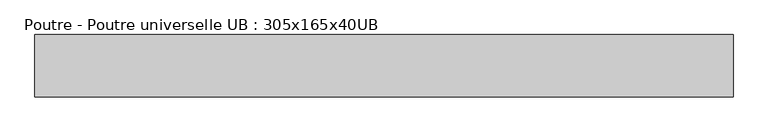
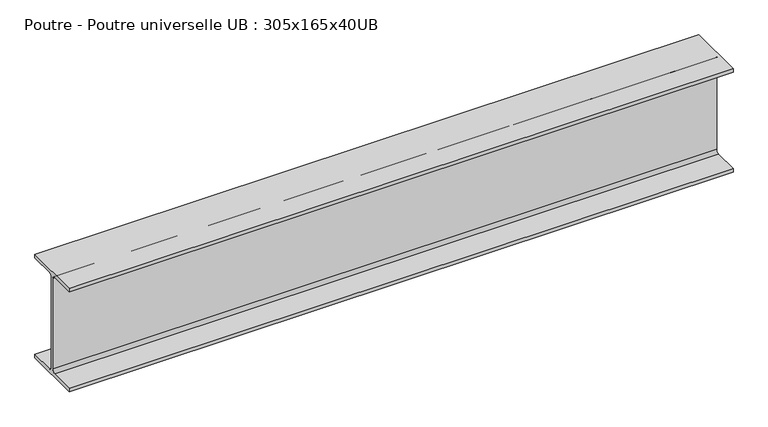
"""IFC4 building model written with IfcOpenShell, lengths in millimetres: beam geometry, Poutre - Poutre universelle UB : 305x165x40UB."""

from ifc_helpers import new_model, si_unit, point, frame, frame_2d, origin, place, context, project, spatial, polyline, circle_curve, trimmed, segment, composite_curve, outline, extrude, source, transform, mapped, element, save


def poutre_poutre_universelle_ub_305x165x40ub_c9da309c(model_context):
    return source(origin(), model_context, "Body", "SweptSolid", [
        extrude(outline(composite_curve([segment(polyline([(82.5, -141.5), (82.5, -151.7), (-82.5, -151.7), (-82.5, -141.5), (-11.9, -141.5)]), True, "CONTINUOUS"), segment(trimmed(circle_curve(frame_2d((-11.9, -132.6)), 8.9), [point((-11.9, -141.5))], [point((-3.0, -132.6))], True, "CARTESIAN"), True, "CONTINUOUS"), segment(polyline([(-3.0, -132.6), (-3.0, 132.6)]), True, "CONTINUOUS"), segment(trimmed(circle_curve(frame_2d((-11.9, 132.6)), 8.9), [point((-3.0, 132.6))], [point((-11.9, 141.5))], True, "CARTESIAN"), True, "CONTINUOUS"), segment(polyline([(-11.9, 141.5), (-82.5, 141.5), (-82.5, 151.7), (82.5, 151.7), (82.5, 141.5), (11.9, 141.5)]), True, "CONTINUOUS"), segment(trimmed(circle_curve(frame_2d((11.9, 132.6)), 8.9), [point((11.9, 141.5))], [point((3.0, 132.6))], True, "CARTESIAN"), True, "CONTINUOUS"), segment(polyline([(3.0, 132.6), (3.0, -132.6)]), True, "CONTINUOUS"), segment(trimmed(circle_curve(frame_2d((11.9, -132.6)), 8.9), [point((3.0, -132.6))], [point((11.9, -141.5))], True, "CARTESIAN"), True, "CONTINUOUS"), segment(polyline([(11.9, -141.5), (82.5, -141.5)]), True, "CONTINUOUS")], self_intersect=False)), frame((-1025.5, 0.0, 0.0), z_axis=(1.0, 0.0, 0.0), x_axis=(0.0, 1.0, 0.0)), (0.0, 0.0, 1.0), 1843.0),
    ])


if __name__ == "__main__":
    model = new_model("IFC4")
    model_context = context("Model", 3, world=origin())
    ifc_project = project(units=[si_unit("LENGTHUNIT", "METRE", prefix="MILLI")], contexts=[model_context])
    site = spatial("IfcSite", under=ifc_project)
    building = spatial("IfcBuilding", under=site)
    placement = place(None, origin())
    poutre_poutre_universelle_ub_305x165x40ub_shape = poutre_poutre_universelle_ub_305x165x40ub_c9da309c(model_context)
    element("IfcBeam", 1, ObjectType="Poutre - Poutre universelle UB : 305x165x40UB", at=placement, inside=building, context=model_context, shape_type="MappedRepresentation", body=[
        mapped(poutre_poutre_universelle_ub_305x165x40ub_shape, transform((0.0, 0.0, 0.0), x_axis=(1.0, 0.0, 0.0), y_axis=(0.0, 1.0, 0.0), z_axis=(0.0, 0.0, 1.0))),
    ])
    save(model, "model.ifc")
